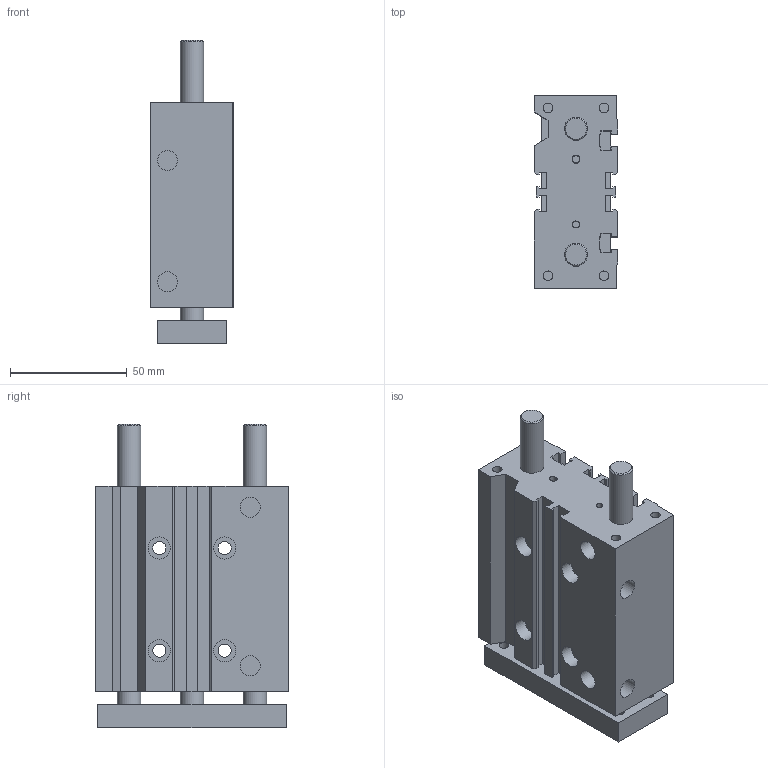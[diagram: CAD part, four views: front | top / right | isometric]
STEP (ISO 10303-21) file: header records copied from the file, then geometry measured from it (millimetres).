
FILE_DESCRIPTION((''),'2;1');
FILE_NAME('K:\A-Mauro\_Inventor\LIBRERIE\6100\6100_#_#_#\6100200050C.stp','2007-02-26T08:51:25',('valotma1'),(''),'Autodesk Inventor 11','Autodesk Inventor 11','');
FILE_SCHEMA(('AUTOMOTIVE_DESIGN { 1 0 10303 214 1 1 1 1 }'));
Length unit declared in the file: millimetre
Products named in the file (3): 6100200050C; CORPO Ø20 C50 C; PIASTRA Ø20 C50 C
Assembly tree (2 placements, depth 2):
  6100200050C
    CORPO Ø20 C50 C
    PIASTRA Ø20 C50 C
Bounding box: 36 x 83 x 130 mm (x, y, z)
Volume: 257640.6 mm3; surface area: 62174.1 mm2
Topology: 2 solids, 2 shells, 158 faces, 393 edges, 261 vertices
Faces by surface type: plane 95, bspline 52, cylinder 9, cone 2
Full cylindrical faces by diameter (mm): 10 x3
Entity records: 4932 total; most frequent: CARTESIAN_POINT 1329, ORIENTED_EDGE 702, DIRECTION 654, EDGE_CURVE 351, VECTOR 270, LINE 270, VERTEX_POINT 253, EDGE_LOOP 234
